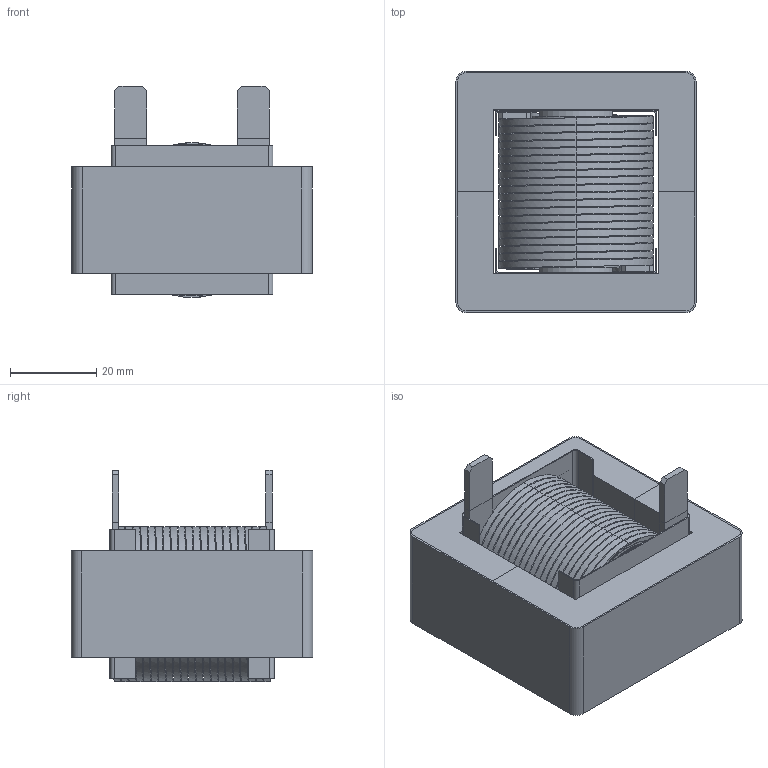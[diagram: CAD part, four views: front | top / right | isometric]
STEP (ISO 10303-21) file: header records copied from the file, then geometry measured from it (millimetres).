
FILE_DESCRIPTION (( 'STEP AP214' ), '1' );
FILE_NAME ('EK55246-800M-85AH.STEP', '2021-04-19T09:05:27', ( '' ), ( '' ), 'SwSTEP 2.0', 'SolidWorks 2015', '' );
FILE_SCHEMA (( 'AUTOMOTIVE_DESIGN' ));
Length unit declared in the file: millimetre
Products named in the file (6): HELICAL COIL; E CORE; CENTER MYLAR; EK55246-800M-85AH; WRAPPER; SIDE MYLAR
Assembly tree (7 placements, depth 2):
  EK55246-800M-85AH
    HELICAL COIL
    E CORE  x2
    SIDE MYLAR  x2
    CENTER MYLAR
    WRAPPER
Bounding box: 55.62 x 55.9 x 48.85 mm (x, y, z)
Volume: 73062 mm3; surface area: 70041.7 mm2
Topology: 9 solids, 9 shells, 356 faces, 964 edges, 640 vertices
Faces by surface type: plane 181, cylinder 116, bspline 59
Entity records: 18504 total; most frequent: CARTESIAN_POINT 9138, ORIENTED_EDGE 1760, DIRECTION 1184, EDGE_CURVE 880, VERTEX_POINT 584, VECTOR 544, LINE 544, EDGE_LOOP 346
